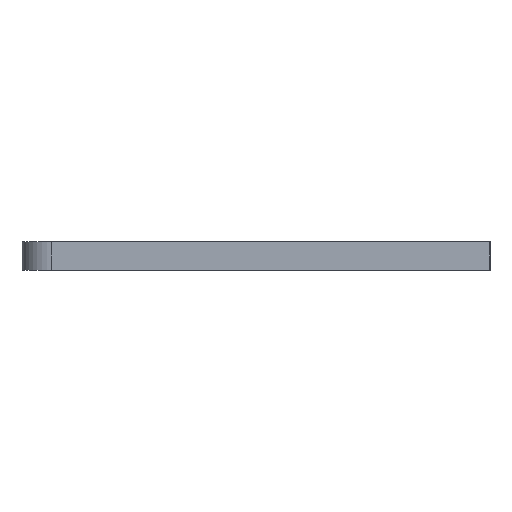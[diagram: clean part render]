
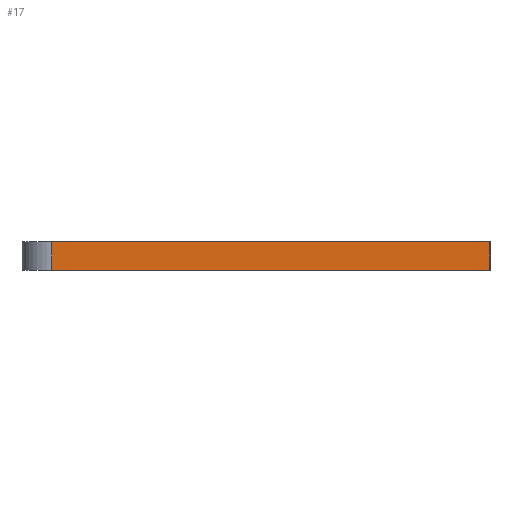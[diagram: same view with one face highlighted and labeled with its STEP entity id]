
A CAD part, left-side view. The second image highlights one B-rep face of the part: STEP entity #17.
In plain terms, the highlighted planar face has unit normal (-1, 0, 0).
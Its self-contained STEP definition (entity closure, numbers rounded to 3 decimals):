
#17 = ADVANCED_FACE('',(#18),#32,.F.);
#18 = FACE_BOUND('',#19,.F.);
#19 = EDGE_LOOP('',(#20,#55,#81,#109));
#20 = ORIENTED_EDGE('',*,*,#21,.F.);
#21 = EDGE_CURVE('',#22,#24,#26,.T.);
#22 = VERTEX_POINT('',#23);
#23 = CARTESIAN_POINT('',(0.,190.2,72.));
#24 = VERTEX_POINT('',#25);
#25 = CARTESIAN_POINT('',(0.,278.,72.));
#26 = SURFACE_CURVE('',#27,(#31,#43),.PCURVE_S1.);
#27 = LINE('',#28,#29);
#28 = CARTESIAN_POINT('',(0.,0.,72.));
#29 = VECTOR('',#30,1.);
#30 = DIRECTION('',(0.,1.,0.));
#31 = PCURVE('',#32,#37);
#32 = PLANE('',#33);
#33 = AXIS2_PLACEMENT_3D('',#34,#35,#36);
#34 = CARTESIAN_POINT('',(0.,0.,66.3));
#35 = DIRECTION('',(1.,0.,0.));
#36 = DIRECTION('',(0.,0.,1.));
#37 = DEFINITIONAL_REPRESENTATION('',(#38),#42);
#38 = LINE('',#39,#40);
#39 = CARTESIAN_POINT('',(5.7,0.));
#40 = VECTOR('',#41,1.);
#41 = DIRECTION('',(0.,-1.));
#42 = ( GEOMETRIC_REPRESENTATION_CONTEXT(2) 
PARAMETRIC_REPRESENTATION_CONTEXT() REPRESENTATION_CONTEXT('2D SPACE',''
  ) );
#43 = PCURVE('',#44,#49);
#44 = PLANE('',#45);
#45 = AXIS2_PLACEMENT_3D('',#46,#47,#48);
#46 = CARTESIAN_POINT('',(0.,0.,72.));
#47 = DIRECTION('',(0.,0.,1.));
#48 = DIRECTION('',(1.,0.,0.));
#49 = DEFINITIONAL_REPRESENTATION('',(#50),#54);
#50 = LINE('',#51,#52);
#51 = CARTESIAN_POINT('',(0.,0.));
#52 = VECTOR('',#53,1.);
#53 = DIRECTION('',(0.,1.));
#54 = ( GEOMETRIC_REPRESENTATION_CONTEXT(2) 
PARAMETRIC_REPRESENTATION_CONTEXT() REPRESENTATION_CONTEXT('2D SPACE',''
  ) );
#55 = ORIENTED_EDGE('',*,*,#56,.F.);
#56 = EDGE_CURVE('',#57,#22,#59,.T.);
#57 = VERTEX_POINT('',#58);
#58 = CARTESIAN_POINT('',(0.,190.2,66.3));
#59 = SURFACE_CURVE('',#60,(#64,#70),.PCURVE_S1.);
#60 = LINE('',#61,#62);
#61 = CARTESIAN_POINT('',(0.,190.2,66.15));
#62 = VECTOR('',#63,1.);
#63 = DIRECTION('',(0.,0.,1.));
#64 = PCURVE('',#32,#65);
#65 = DEFINITIONAL_REPRESENTATION('',(#66),#69);
#66 = B_SPLINE_CURVE_WITH_KNOTS('',1,(#67,#68),.UNSPECIFIED.,.F.,.F.,(2,
    2),(0.15,5.85),.PIECEWISE_BEZIER_KNOTS.);
#67 = CARTESIAN_POINT('',(0.,-190.2));
#68 = CARTESIAN_POINT('',(5.7,-190.2));
#69 = ( GEOMETRIC_REPRESENTATION_CONTEXT(2) 
PARAMETRIC_REPRESENTATION_CONTEXT() REPRESENTATION_CONTEXT('2D SPACE',''
  ) );
#70 = PCURVE('',#71,#76);
#71 = PLANE('',#72);
#72 = AXIS2_PLACEMENT_3D('',#73,#74,#75);
#73 = CARTESIAN_POINT('',(-1.,190.2,66.));
#74 = DIRECTION('',(0.,1.,0.));
#75 = DIRECTION('',(0.,0.,1.));
#76 = DEFINITIONAL_REPRESENTATION('',(#77),#80);
#77 = B_SPLINE_CURVE_WITH_KNOTS('',1,(#78,#79),.UNSPECIFIED.,.F.,.F.,(2,
    2),(0.15,5.85),.PIECEWISE_BEZIER_KNOTS.);
#78 = CARTESIAN_POINT('',(0.3,1.));
#79 = CARTESIAN_POINT('',(6.,1.));
#80 = ( GEOMETRIC_REPRESENTATION_CONTEXT(2) 
PARAMETRIC_REPRESENTATION_CONTEXT() REPRESENTATION_CONTEXT('2D SPACE',''
  ) );
#81 = ORIENTED_EDGE('',*,*,#82,.T.);
#82 = EDGE_CURVE('',#57,#83,#85,.T.);
#83 = VERTEX_POINT('',#84);
#84 = CARTESIAN_POINT('',(0.,278.,66.3));
#85 = SURFACE_CURVE('',#86,(#90,#97),.PCURVE_S1.);
#86 = LINE('',#87,#88);
#87 = CARTESIAN_POINT('',(0.,0.,66.3));
#88 = VECTOR('',#89,1.);
#89 = DIRECTION('',(0.,1.,0.));
#90 = PCURVE('',#32,#91);
#91 = DEFINITIONAL_REPRESENTATION('',(#92),#96);
#92 = LINE('',#93,#94);
#93 = CARTESIAN_POINT('',(0.,0.));
#94 = VECTOR('',#95,1.);
#95 = DIRECTION('',(0.,-1.));
#96 = ( GEOMETRIC_REPRESENTATION_CONTEXT(2) 
PARAMETRIC_REPRESENTATION_CONTEXT() REPRESENTATION_CONTEXT('2D SPACE',''
  ) );
#97 = PCURVE('',#98,#103);
#98 = PLANE('',#99);
#99 = AXIS2_PLACEMENT_3D('',#100,#101,#102);
#100 = CARTESIAN_POINT('',(0.,0.,66.3));
#101 = DIRECTION('',(0.,0.,1.));
#102 = DIRECTION('',(1.,0.,0.));
#103 = DEFINITIONAL_REPRESENTATION('',(#104),#108);
#104 = LINE('',#105,#106);
#105 = CARTESIAN_POINT('',(0.,0.));
#106 = VECTOR('',#107,1.);
#107 = DIRECTION('',(0.,1.));
#108 = ( GEOMETRIC_REPRESENTATION_CONTEXT(2) 
PARAMETRIC_REPRESENTATION_CONTEXT() REPRESENTATION_CONTEXT('2D SPACE',''
  ) );
#109 = ORIENTED_EDGE('',*,*,#110,.T.);
#110 = EDGE_CURVE('',#83,#24,#111,.T.);
#111 = SURFACE_CURVE('',#112,(#116,#123),.PCURVE_S1.);
#112 = LINE('',#113,#114);
#113 = CARTESIAN_POINT('',(0.,278.,66.3));
#114 = VECTOR('',#115,1.);
#115 = DIRECTION('',(0.,0.,1.));
#116 = PCURVE('',#32,#117);
#117 = DEFINITIONAL_REPRESENTATION('',(#118),#122);
#118 = LINE('',#119,#120);
#119 = CARTESIAN_POINT('',(0.,-278.));
#120 = VECTOR('',#121,1.);
#121 = DIRECTION('',(1.,0.));
#122 = ( GEOMETRIC_REPRESENTATION_CONTEXT(2) 
PARAMETRIC_REPRESENTATION_CONTEXT() REPRESENTATION_CONTEXT('2D SPACE',''
  ) );
#123 = PCURVE('',#124,#129);
#124 = CYLINDRICAL_SURFACE('',#125,6.);
#125 = AXIS2_PLACEMENT_3D('',#126,#127,#128);
#126 = CARTESIAN_POINT('',(6.,278.,66.3));
#127 = DIRECTION('',(0.,0.,1.));
#128 = DIRECTION('',(-1.,-0.,0.));
#129 = DEFINITIONAL_REPRESENTATION('',(#130),#134);
#130 = LINE('',#131,#132);
#131 = CARTESIAN_POINT('',(-0.,0.));
#132 = VECTOR('',#133,1.);
#133 = DIRECTION('',(-0.,1.));
#134 = ( GEOMETRIC_REPRESENTATION_CONTEXT(2) 
PARAMETRIC_REPRESENTATION_CONTEXT() REPRESENTATION_CONTEXT('2D SPACE',''
  ) );
